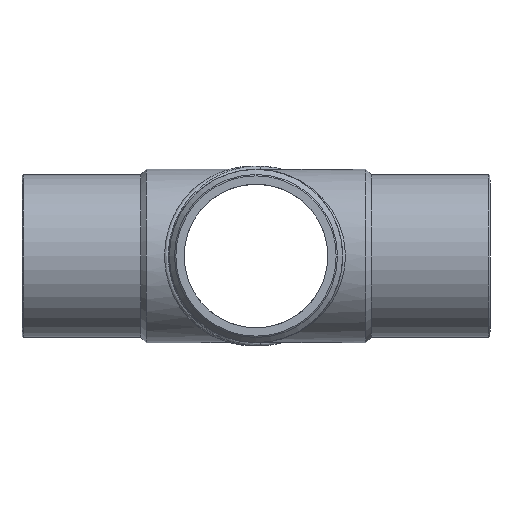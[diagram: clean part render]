
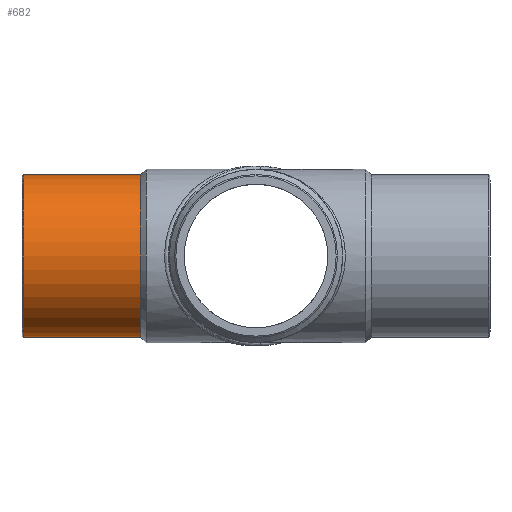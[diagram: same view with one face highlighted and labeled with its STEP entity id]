
A CAD part, front view. The second image highlights one B-rep face of the part: STEP entity #682.
In plain terms, the highlighted cylindrical face has radius 62.5 mm (diameter 125 mm), a full revolution.
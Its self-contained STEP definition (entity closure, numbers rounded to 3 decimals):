
#46=CIRCLE('',#746,62.5);
#47=CIRCLE('',#748,62.5);
#70=CYLINDRICAL_SURFACE('',#747,62.5);
#186=ORIENTED_EDGE('',*,*,#388,.T.);
#187=ORIENTED_EDGE('',*,*,#387,.T.);
#387=EDGE_CURVE('',#488,#488,#46,.T.);
#388=EDGE_CURVE('',#489,#489,#47,.T.);
#488=VERTEX_POINT('',#1134);
#489=VERTEX_POINT('',#1137);
#564=EDGE_LOOP('',(#186));
#565=EDGE_LOOP('',(#187));
#622=FACE_BOUND('',#564,.T.);
#623=FACE_BOUND('',#565,.T.);
#682=ADVANCED_FACE('',(#622,#623),#70,.T.);
#746=AXIS2_PLACEMENT_3D('',#1133,#820,#821);
#747=AXIS2_PLACEMENT_3D('',#1135,#822,#823);
#748=AXIS2_PLACEMENT_3D('',#1136,#824,#825);
#820=DIRECTION('',(-1.,0.,0.));
#821=DIRECTION('',(0.,0.,1.));
#822=DIRECTION('',(-1.,0.,0.));
#823=DIRECTION('',(0.,0.,1.));
#824=DIRECTION('',(1.,0.,0.));
#825=DIRECTION('',(0.,0.,-1.));
#1133=CARTESIAN_POINT('',(-88.5,0.,0.));
#1134=CARTESIAN_POINT('',(-88.5,0.,62.5));
#1135=CARTESIAN_POINT('',(-60.,0.,0.));
#1136=CARTESIAN_POINT('',(-178.5,0.,0.));
#1137=CARTESIAN_POINT('',(-178.5,0.,-62.5));
